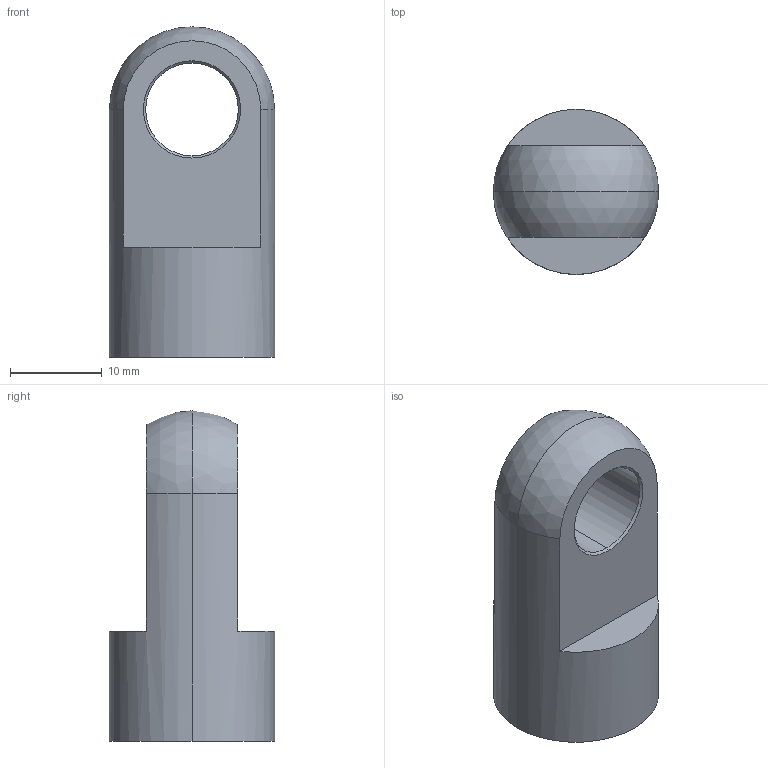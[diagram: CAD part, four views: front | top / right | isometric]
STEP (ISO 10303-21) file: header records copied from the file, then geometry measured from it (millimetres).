
FILE_DESCRIPTION (( 'STEP AP214' ), '1' );
FILE_NAME ('18.09N2AD10T.STEP', '2017-10-23T13:14:12', ( '' ), ( '' ), 'SwSTEP 2.0', 'SolidWorks 2016', '' );
FILE_SCHEMA (( 'AUTOMOTIVE_DESIGN' ));
Length unit declared in the file: millimetre
Products named in the file (1): 18.09N2AD10T
Bounding box: 18 x 18 x 36 mm (x, y, z)
Volume: 5213 mm3; surface area: 2713.3 mm2
Topology: 1 solids, 1 shells, 21 faces, 48 edges, 28 vertices
Faces by surface type: cone 8, cylinder 6, plane 5, sphere 2
Entity records: 620 total; most frequent: DIRECTION 116, CARTESIAN_POINT 96, ORIENTED_EDGE 92, AXIS2_PLACEMENT_3D 48, EDGE_CURVE 46, VERTEX_POINT 28, CIRCLE 26, EDGE_LOOP 24
